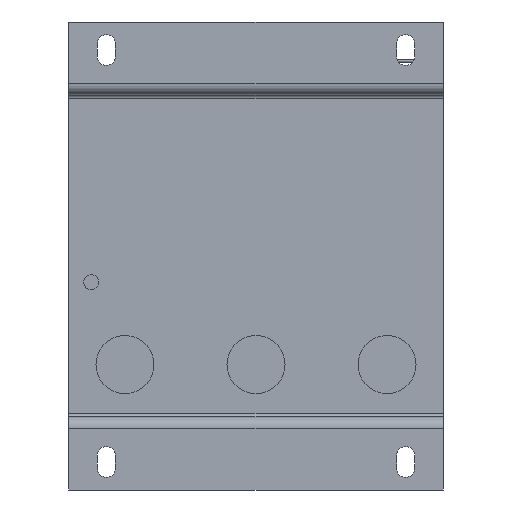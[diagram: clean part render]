
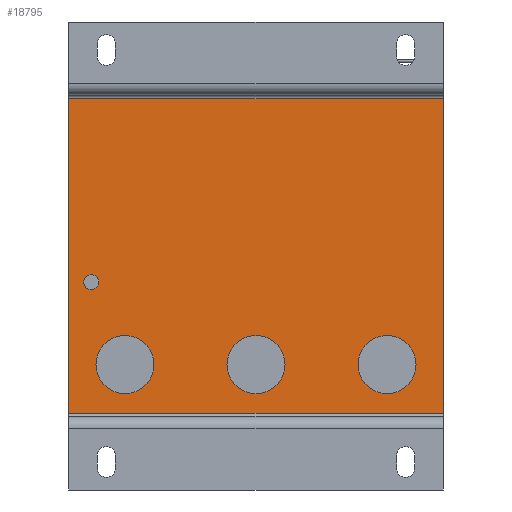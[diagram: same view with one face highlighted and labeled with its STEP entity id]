
A CAD part, front view. The second image highlights one B-rep face of the part: STEP entity #18795.
In plain terms, the highlighted planar face has unit normal (0, -1, 0).
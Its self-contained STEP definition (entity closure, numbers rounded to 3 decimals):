
#485 = AXIS2_PLACEMENT_3D ( 'NONE', #8081, #24093, #6415 ) ;
#505 = LINE ( 'NONE', #17347, #19610 ) ;
#546 = EDGE_LOOP ( 'NONE', ( #8764, #18016, #10268, #13255 ) ) ;
#1039 = DIRECTION ( 'NONE',  ( 0., -1., 0. ) ) ;
#1593 = VERTEX_POINT ( 'NONE', #17283 ) ;
#1623 = EDGE_CURVE ( 'NONE', #7514, #23754, #15824, .T. ) ;
#1926 = VERTEX_POINT ( 'NONE', #13787 ) ;
#2029 = EDGE_CURVE ( 'NONE', #23724, #24512, #13482, .T. ) ;
#2082 = AXIS2_PLACEMENT_3D ( 'NONE', #21086, #25062, #3301 ) ;
#2531 = FACE_BOUND ( 'NONE', #11581, .T. ) ;
#2558 = DIRECTION ( 'NONE',  ( 0., -1., 0. ) ) ;
#2707 = VERTEX_POINT ( 'NONE', #4845 ) ;
#2777 = CIRCLE ( 'NONE', #24049, 2. ) ;
#2844 = EDGE_LOOP ( 'NONE', ( #22986, #14924 ) ) ;
#2905 = CARTESIAN_POINT ( 'NONE',  ( -45.976, 15., -32.958 ) ) ;
#3052 = AXIS2_PLACEMENT_3D ( 'NONE', #14247, #18096, #17971 ) ;
#3301 = DIRECTION ( 'NONE',  ( 0., 0., 1. ) ) ;
#3339 = DIRECTION ( 'NONE',  ( 0., 0., -1. ) ) ;
#3462 = CIRCLE ( 'NONE', #16125, 7.75 ) ;
#4653 = VERTEX_POINT ( 'NONE', #14221 ) ;
#4845 = CARTESIAN_POINT ( 'NONE',  ( 0., 15., -46.9 ) ) ;
#5086 = PLANE ( 'NONE',  #16178 ) ;
#5213 = DIRECTION ( 'NONE',  ( 0., 1., 0. ) ) ;
#5261 = CARTESIAN_POINT ( 'NONE',  ( -44., 15., -32.65 ) ) ;
#5301 = DIRECTION ( 'NONE',  ( 0., 0., 1. ) ) ;
#5599 = CIRCLE ( 'NONE', #15000, 7.75 ) ;
#5694 = VERTEX_POINT ( 'NONE', #11532 ) ;
#6029 = EDGE_CURVE ( 'NONE', #4653, #7514, #11649, .T. ) ;
#6173 = CARTESIAN_POINT ( 'NONE',  ( 0., 15., 16.35 ) ) ;
#6343 = DIRECTION ( 'NONE',  ( 0., -1., 0. ) ) ;
#6415 = DIRECTION ( 'NONE',  ( 0., 0., 1. ) ) ;
#6423 = LINE ( 'NONE', #6173, #11584 ) ;
#6477 = DIRECTION ( 'NONE',  ( 0., 0., -1. ) ) ;
#6492 = ORIENTED_EDGE ( 'NONE', *, *, #14937, .F. ) ;
#6499 = FACE_OUTER_BOUND ( 'NONE', #546, .T. ) ;
#6943 = CARTESIAN_POINT ( 'NONE',  ( -44., 15., -32.65 ) ) ;
#7514 = VERTEX_POINT ( 'NONE', #2905 ) ;
#7556 = AXIS2_PLACEMENT_3D ( 'NONE', #5261, #13055, #3339 ) ;
#7563 = CIRCLE ( 'NONE', #12053, 7.75 ) ;
#8081 = CARTESIAN_POINT ( 'NONE',  ( 35., 15., -54.65 ) ) ;
#8474 = VECTOR ( 'NONE', #15786, 1000. ) ;
#8486 = DIRECTION ( 'NONE',  ( 0., 0., 1. ) ) ;
#8756 = CARTESIAN_POINT ( 'NONE',  ( -50., 15., -67.65 ) ) ;
#8764 = ORIENTED_EDGE ( 'NONE', *, *, #16816, .F. ) ;
#9541 = EDGE_CURVE ( 'NONE', #2707, #21225, #20211, .T. ) ;
#9560 = CARTESIAN_POINT ( 'NONE',  ( 50., 15., 0. ) ) ;
#10268 = ORIENTED_EDGE ( 'NONE', *, *, #2029, .F. ) ;
#10610 = CARTESIAN_POINT ( 'NONE',  ( 50., 15., -67.65 ) ) ;
#11425 = DIRECTION ( 'NONE',  ( 0., -1., 0. ) ) ;
#11444 = CARTESIAN_POINT ( 'NONE',  ( -35., 15., -46.9 ) ) ;
#11532 = CARTESIAN_POINT ( 'NONE',  ( -35., 15., -62.4 ) ) ;
#11581 = EDGE_LOOP ( 'NONE', ( #18949, #20621, #6492 ) ) ;
#11584 = VECTOR ( 'NONE', #21557, 1000. ) ;
#11649 = CIRCLE ( 'NONE', #7556, 2. ) ;
#11751 = EDGE_CURVE ( 'NONE', #24512, #1593, #505, .T. ) ;
#12053 = AXIS2_PLACEMENT_3D ( 'NONE', #18445, #2558, #20605 ) ;
#12357 = CIRCLE ( 'NONE', #485, 7.75 ) ;
#12456 = DIRECTION ( 'NONE',  ( 0., -1., 0. ) ) ;
#12908 = VERTEX_POINT ( 'NONE', #17735 ) ;
#13055 = DIRECTION ( 'NONE',  ( 0., -1., 0. ) ) ;
#13255 = ORIENTED_EDGE ( 'NONE', *, *, #22859, .F. ) ;
#13284 = DIRECTION ( 'NONE',  ( 0., 0., -1. ) ) ;
#13482 = LINE ( 'NONE', #21305, #8474 ) ;
#13787 = CARTESIAN_POINT ( 'NONE',  ( 35., 15., -62.4 ) ) ;
#13993 = EDGE_CURVE ( 'NONE', #5694, #15217, #5599, .T. ) ;
#14221 = CARTESIAN_POINT ( 'NONE',  ( -42.024, 15., -32.342 ) ) ;
#14247 = CARTESIAN_POINT ( 'NONE',  ( 0., 15., -54.65 ) ) ;
#14601 = AXIS2_PLACEMENT_3D ( 'NONE', #6943, #1039, #22448 ) ;
#14694 = FACE_BOUND ( 'NONE', #2844, .T. ) ;
#14924 = ORIENTED_EDGE ( 'NONE', *, *, #9541, .F. ) ;
#14937 = EDGE_CURVE ( 'NONE', #23754, #4653, #2777, .T. ) ;
#14940 = DIRECTION ( 'NONE',  ( 0., 0., 1. ) ) ;
#15000 = AXIS2_PLACEMENT_3D ( 'NONE', #16452, #12456, #8486 ) ;
#15197 = CARTESIAN_POINT ( 'NONE',  ( 0., 15., 0. ) ) ;
#15217 = VERTEX_POINT ( 'NONE', #11444 ) ;
#15672 = CARTESIAN_POINT ( 'NONE',  ( 35., 15., -54.65 ) ) ;
#15707 = VERTEX_POINT ( 'NONE', #24199 ) ;
#15786 = DIRECTION ( 'NONE',  ( -1., 0., 0. ) ) ;
#15824 = CIRCLE ( 'NONE', #14601, 2. ) ;
#16125 = AXIS2_PLACEMENT_3D ( 'NONE', #15672, #11425, #5301 ) ;
#16178 = AXIS2_PLACEMENT_3D ( 'NONE', #15197, #5213, #14940 ) ;
#16186 = VECTOR ( 'NONE', #13284, 1000. ) ;
#16452 = CARTESIAN_POINT ( 'NONE',  ( -35., 15., -54.65 ) ) ;
#16816 = EDGE_CURVE ( 'NONE', #1593, #15707, #6423, .T. ) ;
#17283 = CARTESIAN_POINT ( 'NONE',  ( -50., 15., 16.35 ) ) ;
#17347 = CARTESIAN_POINT ( 'NONE',  ( -50., 15., 0. ) ) ;
#17543 = ORIENTED_EDGE ( 'NONE', *, *, #13993, .F. ) ;
#17610 = CARTESIAN_POINT ( 'NONE',  ( 0., 15., -62.4 ) ) ;
#17735 = CARTESIAN_POINT ( 'NONE',  ( 35., 15., -46.9 ) ) ;
#17738 = ORIENTED_EDGE ( 'NONE', *, *, #18379, .F. ) ;
#17943 = EDGE_CURVE ( 'NONE', #1926, #12908, #3462, .T. ) ;
#17971 = DIRECTION ( 'NONE',  ( 0., 0., 1. ) ) ;
#18016 = ORIENTED_EDGE ( 'NONE', *, *, #11751, .F. ) ;
#18096 = DIRECTION ( 'NONE',  ( 0., -1., 0. ) ) ;
#18379 = EDGE_CURVE ( 'NONE', #15217, #5694, #7563, .T. ) ;
#18445 = CARTESIAN_POINT ( 'NONE',  ( -35., 15., -54.65 ) ) ;
#18795 = ADVANCED_FACE ( 'NONE', ( #2531, #6499, #22767, #14694, #22891 ), #5086, .F. ) ;
#18852 = CIRCLE ( 'NONE', #2082, 7.75 ) ;
#18949 = ORIENTED_EDGE ( 'NONE', *, *, #1623, .F. ) ;
#19067 = LINE ( 'NONE', #9560, #16186 ) ;
#19610 = VECTOR ( 'NONE', #25152, 1000. ) ;
#19810 = EDGE_CURVE ( 'NONE', #21225, #2707, #18852, .T. ) ;
#20211 = CIRCLE ( 'NONE', #3052, 7.75 ) ;
#20605 = DIRECTION ( 'NONE',  ( 0., 0., 1. ) ) ;
#20621 = ORIENTED_EDGE ( 'NONE', *, *, #6029, .F. ) ;
#21086 = CARTESIAN_POINT ( 'NONE',  ( 0., 15., -54.65 ) ) ;
#21225 = VERTEX_POINT ( 'NONE', #17610 ) ;
#21305 = CARTESIAN_POINT ( 'NONE',  ( 0., 15., -67.65 ) ) ;
#21557 = DIRECTION ( 'NONE',  ( 1., 0., 0. ) ) ;
#21758 = EDGE_CURVE ( 'NONE', #12908, #1926, #12357, .T. ) ;
#22364 = EDGE_LOOP ( 'NONE', ( #17543, #17738 ) ) ;
#22448 = DIRECTION ( 'NONE',  ( 0., 0., -1. ) ) ;
#22767 = FACE_BOUND ( 'NONE', #22364, .T. ) ;
#22790 = CARTESIAN_POINT ( 'NONE',  ( -44., 15., -34.65 ) ) ;
#22859 = EDGE_CURVE ( 'NONE', #15707, #23724, #19067, .T. ) ;
#22891 = FACE_BOUND ( 'NONE', #23229, .T. ) ;
#22986 = ORIENTED_EDGE ( 'NONE', *, *, #19810, .F. ) ;
#23229 = EDGE_LOOP ( 'NONE', ( #24597, #23604 ) ) ;
#23604 = ORIENTED_EDGE ( 'NONE', *, *, #21758, .F. ) ;
#23724 = VERTEX_POINT ( 'NONE', #10610 ) ;
#23754 = VERTEX_POINT ( 'NONE', #22790 ) ;
#23888 = CARTESIAN_POINT ( 'NONE',  ( -44., 15., -32.65 ) ) ;
#24049 = AXIS2_PLACEMENT_3D ( 'NONE', #23888, #6343, #6477 ) ;
#24093 = DIRECTION ( 'NONE',  ( 0., -1., 0. ) ) ;
#24199 = CARTESIAN_POINT ( 'NONE',  ( 50., 15., 16.35 ) ) ;
#24512 = VERTEX_POINT ( 'NONE', #8756 ) ;
#24597 = ORIENTED_EDGE ( 'NONE', *, *, #17943, .F. ) ;
#25062 = DIRECTION ( 'NONE',  ( 0., -1., 0. ) ) ;
#25152 = DIRECTION ( 'NONE',  ( 0., 0., 1. ) ) ;
